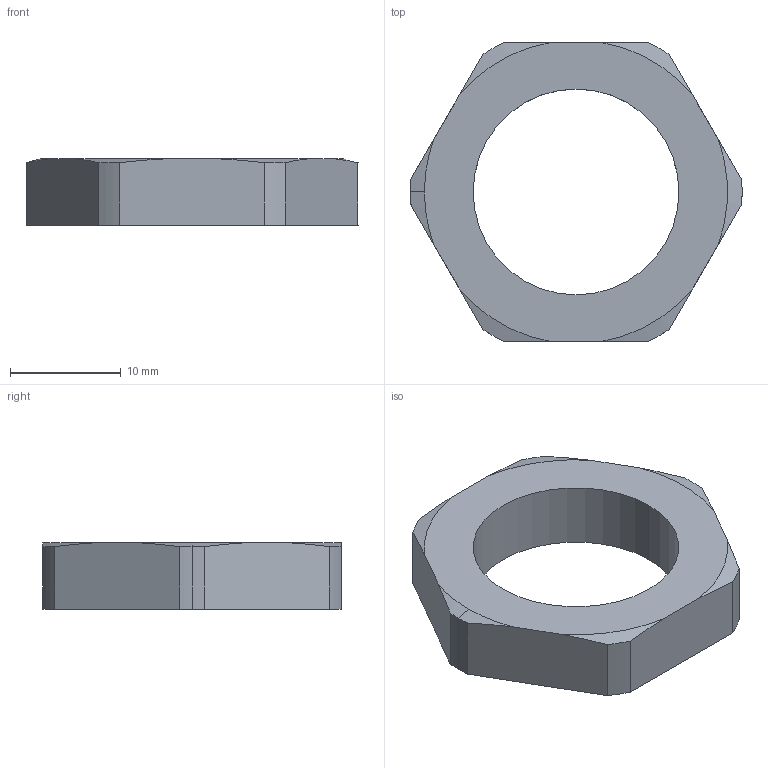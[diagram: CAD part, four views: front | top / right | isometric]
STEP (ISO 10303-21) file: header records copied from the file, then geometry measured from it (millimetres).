
FILE_DESCRIPTION (( 'STEP AP214' ), '1' );
FILE_NAME ('2M20PASW.STEP', '2011-09-27T13:41:44', ( ' ' ), ( '' ), 'SwSTEP 2.0', 'SolidWorks 2011', '' );
FILE_SCHEMA (( 'AUTOMOTIVE_DESIGN' ));
Length unit declared in the file: inch
Products named in the file (1): 2M20PASW
Bounding box: 30 x 27 x 6 mm (x, y, z)
Volume: 2129.5 mm3; surface area: 1600.9 mm2
Topology: 1 solids, 1 shells, 24 faces, 65 edges, 43 vertices
Faces by surface type: cylinder 9, plane 8, cone 7
Entity records: 1142 total; most frequent: CARTESIAN_POINT 177, ORIENTED_EDGE 130, DIRECTION 128, EDGE_CURVE 65, AXIS2_PLACEMENT_3D 50, VERTEX_POINT 43, LINE 28, VECTOR 28
